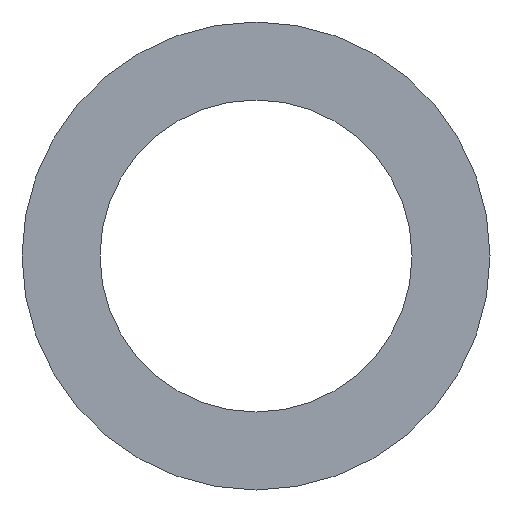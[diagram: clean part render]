
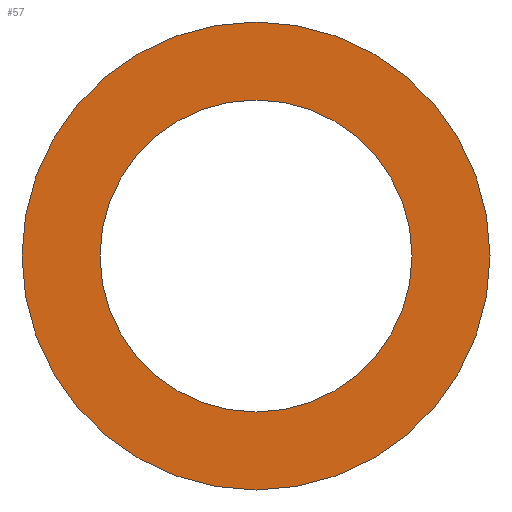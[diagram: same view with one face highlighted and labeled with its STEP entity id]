
A CAD part, left-side view. The second image highlights one B-rep face of the part: STEP entity #57.
In plain terms, the highlighted planar face has unit normal (-1, 0, 0).
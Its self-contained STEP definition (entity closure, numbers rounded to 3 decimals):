
#19=FACE_BOUND('',#30,.T.);
#23=FACE_OUTER_BOUND('',#29,.T.);
#29=EDGE_LOOP('',(#49));
#30=EDGE_LOOP('',(#50));
#35=CIRCLE('',#65,20.);
#36=CIRCLE('',#67,30.);
#39=VERTEX_POINT('',#94);
#40=VERTEX_POINT('',#97);
#43=EDGE_CURVE('',#39,#39,#35,.T.);
#44=EDGE_CURVE('',#40,#40,#36,.T.);
#49=ORIENTED_EDGE('',*,*,#44,.F.);
#50=ORIENTED_EDGE('',*,*,#43,.T.);
#54=PLANE('',#66);
#57=ADVANCED_FACE('',(#23,#19),#54,.T.);
#65=AXIS2_PLACEMENT_3D('',#95,#79,#80);
#66=AXIS2_PLACEMENT_3D('',#96,#81,#82);
#67=AXIS2_PLACEMENT_3D('',#98,#83,#84);
#79=DIRECTION('center_axis',(1.,0.,0.));
#80=DIRECTION('ref_axis',(0.,0.,-1.));
#81=DIRECTION('center_axis',(-1.,0.,0.));
#82=DIRECTION('ref_axis',(0.,0.,1.));
#83=DIRECTION('center_axis',(1.,0.,0.));
#84=DIRECTION('ref_axis',(0.,0.,-1.));
#94=CARTESIAN_POINT('',(0.,20.,0.));
#95=CARTESIAN_POINT('Origin',(0.,0.,0.));
#96=CARTESIAN_POINT('Origin',(0.,30.,0.));
#97=CARTESIAN_POINT('',(0.,30.,0.));
#98=CARTESIAN_POINT('Origin',(0.,0.,0.));
